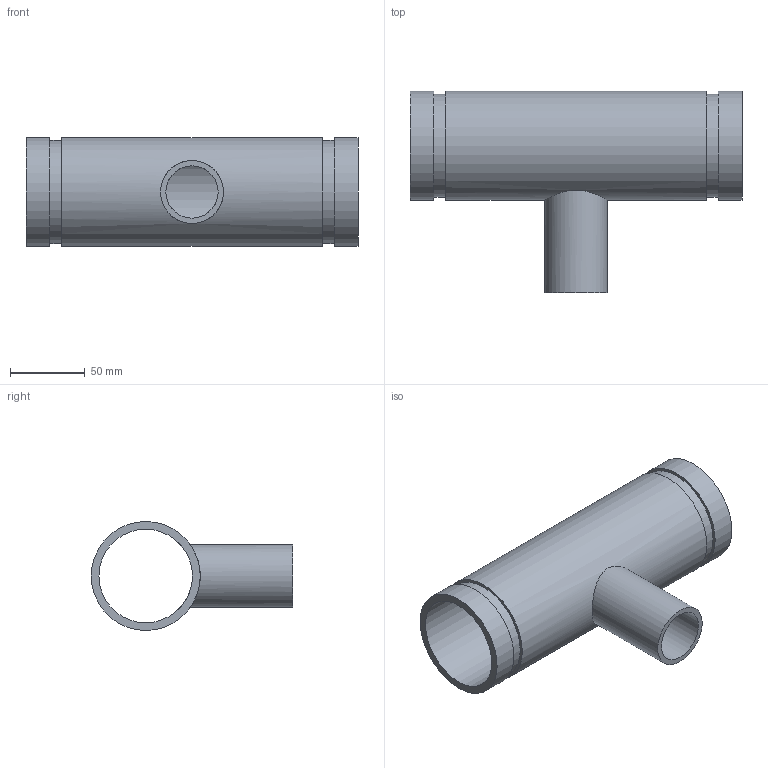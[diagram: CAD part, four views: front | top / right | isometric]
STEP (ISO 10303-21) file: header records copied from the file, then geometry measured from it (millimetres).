
FILE_DESCRIPTION(/* description */ ('VIC REDUCING TEE No 29T FFT (OGSxMPT)','CAx-IF Rec.Pracs.---Representation and Presentation of Product Manufacturing Information (PMI)---4.0---2014-10-13'),/* implementation_level */ '2;1');
FILE_NAME(/* name */ 'C:\Users\kkamble\AppData\Roaming\Autodesk\ApplicationPlugins\Back Up\Victaulic_IPS_Tee Reducing_No 29T FFT (OGSxMPT)\Victaulic_IPS_Tee Reducing_No 29T FFT (OGSxMPT)_02.5x01.25 (65x32).stp',/* time_stamp */ '2020-09-16T22:37:24+05:00',/* author */ ('CORINNE GRAY'),/* organization */ ('Victaulic'),/* preprocessor_version */ 'ST-DEVELOPER v17.2',/* originating_system */ 'Autodesk Inventor 2019',/* authorisation */ '');
FILE_SCHEMA (('AP242_MANAGED_MODEL_BASED_3D_ENGINEERING_MIM_LF { 1 0 10303 442 1 1 4 }'));
Length unit declared in the file: inch
Products named in the file (1): 29 FFT-02.5x01.25
Bounding box: 222.5 x 135.06 x 73.03 mm (x, y, z)
Volume: 260403.2 mm3; surface area: 112941.2 mm2
Topology: 1 solids, 1 shells, 15 faces, 32 edges, 24 vertices
Faces by surface type: cylinder 8, plane 7
Full cylindrical faces by diameter (mm): 35.052 x1, 42.164 x1, 62.713 x1, 69.088 x2, 73.025 x3
Entity records: 701 total; most frequent: CARTESIAN_POINT 213, DIRECTION 106, ORIENTED_EDGE 64, AXIS2_PLACEMENT_3D 49, EDGE_CURVE 32, EDGE_LOOP 24, VERTEX_POINT 24, CIRCLE 20
